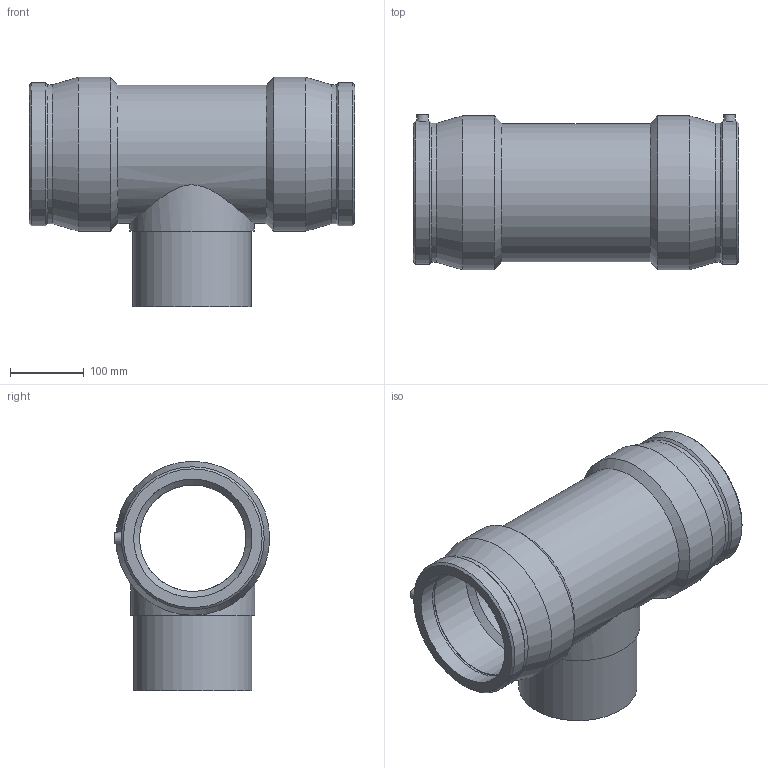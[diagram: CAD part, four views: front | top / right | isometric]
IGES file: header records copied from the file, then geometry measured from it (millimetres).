
Global section: file name: 490404160.ipt; native system: Autodesk Inventor 2015; preprocessor: unknown; author: KIM; date: 20171106.093617; units: millimetre
Bounding box: 440 x 210 x 310 mm (x, y, z)
Volume: 5887653.1 mm3; surface area: 606586.3 mm2
Topology: 1 solids, 1 shells, 47 faces, 105 edges, 68 vertices
Faces by surface type: plane 12, revolution 12, cone 12, cylinder 11
Full cylindrical faces by diameter (mm): 4 x2, 160 x1, 168 x1, 187.2 x1, 187.637 x2, 193.44 x2, 208 x2
